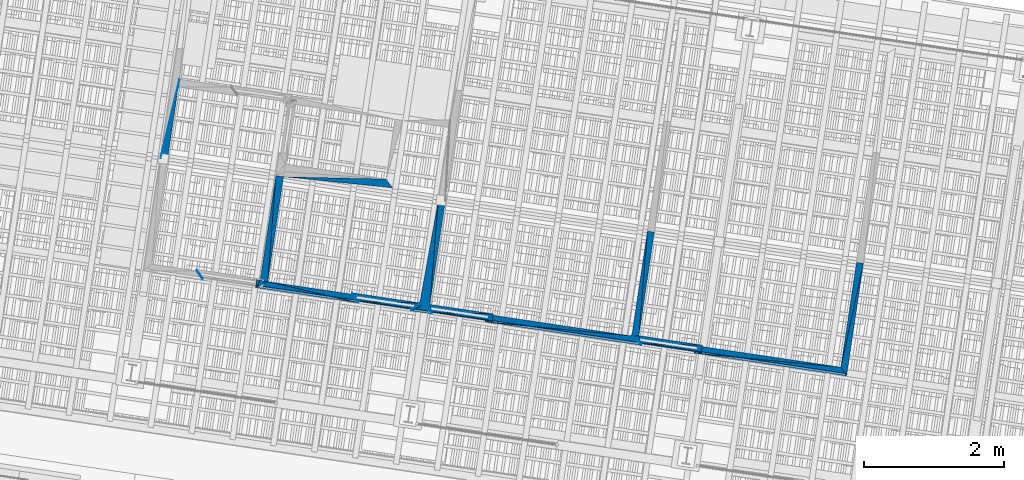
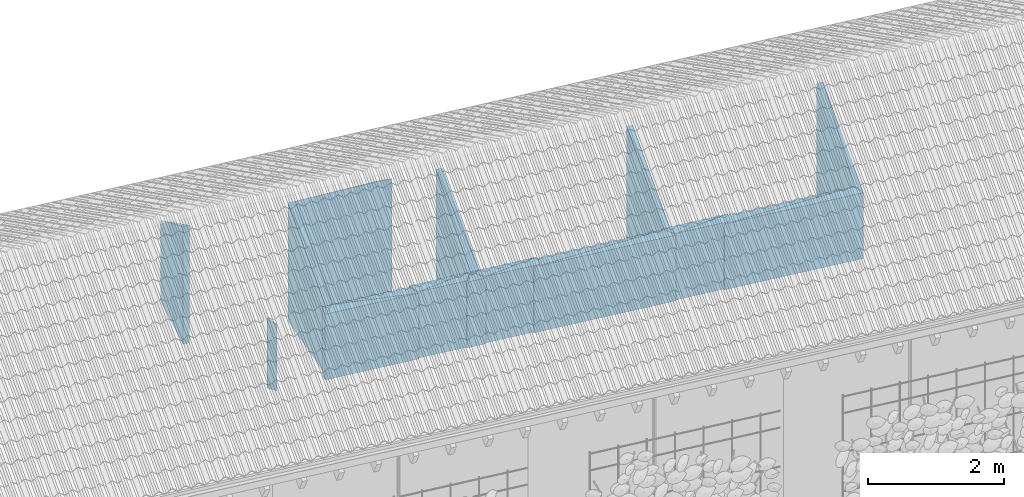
# One storey, part 121 of 128: 38 walls.
"""IFC4 building model written with IfcOpenShell, lengths in metres."""

from ifc_helpers import new_model, si_unit, direction, frame, origin_with_axes, place, context, subcontext, project, spatial, polygons, material, element, save


model = new_model("IFC4")

# Units and contexts
model_context = context("Model", 3, precision=1e-05, world=origin_with_axes(), true_north=direction((0.0, 1.0)))
body_context = subcontext(model_context, "Body", "Model", "MODEL_VIEW")
ifc_project = project(units=[si_unit("VOLUMEUNIT", "CUBIC_METRE"), si_unit("LENGTHUNIT", "METRE"), si_unit("AREAUNIT", "SQUARE_METRE")], contexts=[model_context])

# Site, building, storey
site_placement = place(None, origin_with_axes())
site = spatial("IfcSite", under=ifc_project, at=site_placement, Name="Lares · Rua das Mercês · artigo 4771")
building_placement = place(site_placement, frame((15.0, 9.7, 13.9), z_axis=(0.0, 0.0, 1.0), x_axis=(0.989015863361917, -0.147809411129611, 0.0)))
building = spatial("IfcBuilding", under=site, at=building_placement, Name="Casa Sobreposta")
storey_placement = place(building_placement, origin_with_axes())
storey = spatial("IfcBuildingStorey", under=building, at=storey_placement, Name="00 · Habitação e estacionamento", Elevation=13.9)

# Walls
ifc_material = material(Name="OSB", Category="wood")
wall_1_placement = place(storey_placement, origin_with_axes())
element("IfcWall", 1, at=wall_1_placement, inside=storey, material=ifc_material, Name="Divisória · prolongamento até ao forro", context=body_context, shape_type="Tessellation", body=[
    polygons([(8.80999999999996, 1.57999999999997, 3.05), (8.80999999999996, 1.60006813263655, 3.05), (8.70456930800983, 1.68999999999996, 3.05), (8.80999999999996, 1.57999999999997, 4.23221342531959), (8.80999999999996, 1.60006813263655, 4.24379976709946), (8.70456930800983, 1.68999999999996, 4.29572195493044)], [[[3, 2, 1]], [[4, 5, 6]], [[1, 2, 5, 4]], [[2, 3, 6, 5]], [[3, 1, 4, 6]]]),
])
wall_2_placement = place(storey_placement, origin_with_axes())
element("IfcWall", 2, at=wall_2_placement, inside=storey, material=ifc_material, Name="Divisória · prolongamento até ao forro", context=body_context, shape_type="Tessellation", body=[
    polygons([(8.70457262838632, 1.71008556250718, 3.05), (8.70456930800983, 1.68999999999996, 3.05), (8.80999999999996, 1.60006813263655, 3.05), (8.70457262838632, 1.71008556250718, 4.30731835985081), (8.70456930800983, 1.68999999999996, 4.29572195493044), (8.80999999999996, 1.60006813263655, 4.24379976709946)], [[[3, 2, 1]], [[4, 5, 6]], [[1, 2, 5, 4]], [[2, 3, 6, 5]], [[3, 1, 4, 6]]]),
])
wall_3_placement = place(storey_placement, origin_with_axes())
element("IfcWall", 3, at=wall_3_placement, inside=storey, material=ifc_material, Name="Divisória · prolongamento até ao forro", context=body_context, shape_type="Tessellation", body=[
    polygons([(8.05999999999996, 3.2, 3.05), (8.05999999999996, 4.24299999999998, 3.05), (7.96000000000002, 3.2, 3.05), (8.05999999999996, 3.2, 5.1675208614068), (8.05999999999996, 4.24299999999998, 4.56534453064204), (7.96000000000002, 3.2, 5.1675208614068)], [[[3, 2, 1]], [[4, 5, 6]], [[1, 2, 5, 4]], [[2, 3, 6, 5]], [[3, 1, 4, 6]]]),
])
wall_4_placement = place(storey_placement, origin_with_axes())
element("IfcWall", 4, at=wall_4_placement, inside=storey, material=ifc_material, Name="Divisória · prolongamento até ao forro", context=body_context, shape_type="Tessellation", body=[
    polygons([(7.96000000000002, 3.2, 3.05), (8.05999999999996, 4.24299999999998, 3.05), (8.05999999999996, 4.35299999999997, 3.05), (7.96000000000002, 3.2, 5.1675208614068), (8.05999999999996, 4.24299999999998, 4.56534453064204), (8.05999999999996, 4.35299999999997, 4.50183600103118)], [[[3, 2, 1]], [[4, 5, 6]], [[1, 2, 5, 4]], [[2, 3, 6, 5]], [[3, 1, 4, 6]]]),
])
wall_5_placement = place(storey_placement, origin_with_axes())
element("IfcWall", 5, at=wall_5_placement, inside=storey, material=ifc_material, Name="Divisória · prolongamento até ao forro", context=body_context, shape_type="Tessellation", body=[
    polygons([(9.61999999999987, 3.2, 3.05), (9.61999999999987, 1.68999999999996, 3.05), (9.72999999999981, 1.68999999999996, 3.05), (9.61999999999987, 3.2, 5.1675208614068), (9.61999999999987, 1.68999999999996, 4.29572195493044), (9.72999999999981, 1.68999999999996, 4.29572195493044)], [[[3, 2, 1]], [[4, 5, 6]], [[1, 2, 5, 4]], [[2, 3, 6, 5]], [[3, 1, 4, 6]]]),
])
wall_6_placement = place(storey_placement, origin_with_axes())
element("IfcWall", 6, at=wall_6_placement, inside=storey, material=ifc_material, Name="Divisória · prolongamento até ao forro", context=body_context, shape_type="Tessellation", body=[
    polygons([(9.61999999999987, 3.2, 3.05), (9.72999999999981, 1.68999999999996, 3.05), (9.72999999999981, 3.2, 3.05), (9.61999999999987, 3.2, 5.1675208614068), (9.72999999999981, 1.68999999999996, 4.29572195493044), (9.72999999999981, 3.2, 5.1675208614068)], [[[3, 2, 1]], [[4, 5, 6]], [[1, 2, 5, 4]], [[2, 3, 6, 5]], [[3, 1, 4, 6]]]),
])
wall_7_placement = place(storey_placement, origin_with_axes())
element("IfcWall", 7, at=wall_7_placement, inside=storey, material=ifc_material, Name="Divisória · prolongamento até ao forro", context=body_context, shape_type="Tessellation", body=[
    polygons([(11.96, 3.2, 3.05), (11.9147422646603, 1.70994155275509, 3.05), (12.06, 1.70993390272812, 3.05), (11.96, 3.2, 5.1675208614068), (11.9147422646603, 1.70994155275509, 4.30723521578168), (12.06, 1.70993390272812, 4.30723079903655)], [[[3, 2, 1]], [[4, 5, 6]], [[1, 2, 5, 4]], [[2, 3, 6, 5]], [[3, 1, 4, 6]]]),
])
wall_8_placement = place(storey_placement, origin_with_axes())
element("IfcWall", 8, at=wall_8_placement, inside=storey, material=ifc_material, Name="Divisória · prolongamento até ao forro", context=body_context, shape_type="Tessellation", body=[
    polygons([(11.96, 3.2, 3.05), (12.06, 1.70993390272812, 3.05), (12.06, 3.2, 3.05), (11.96, 3.2, 5.1675208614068), (12.06, 1.70993390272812, 4.30723079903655), (12.06, 3.2, 5.1675208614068)], [[[3, 2, 1]], [[4, 5, 6]], [[1, 2, 5, 4]], [[2, 3, 6, 5]], [[3, 1, 4, 6]]]),
])
wall_9_placement = place(storey_placement, origin_with_axes())
element("IfcWall", 9, at=wall_9_placement, inside=storey, material=ifc_material, Name="Divisória · prolongamento até ao forro", context=body_context, shape_type="Tessellation", body=[
    polygons([(12.9746138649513, 1.7100856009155, 3.05), (12.06, 1.70993390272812, 3.05), (12.1099999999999, 1.59994219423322, 3.05), (12.9746138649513, 1.7100856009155, 4.30731838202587), (12.06, 1.70993390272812, 4.30723079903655), (12.1099999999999, 1.59994219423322, 4.24372705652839)], [[[3, 2, 1]], [[4, 5, 6]], [[1, 2, 5, 4]], [[2, 3, 6, 5]], [[3, 1, 4, 6]]]),
])
wall_10_placement = place(storey_placement, origin_with_axes())
element("IfcWall", 10, at=wall_10_placement, inside=storey, material=ifc_material, Name="Divisória · prolongamento até ao forro", context=body_context, shape_type="Tessellation", body=[
    polygons([(12.9746138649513, 1.7100856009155, 3.05), (12.1099999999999, 1.59994219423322, 3.05), (12.974632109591, 1.60008560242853, 3.05), (12.9746138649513, 1.7100856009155, 4.30731838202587), (12.1099999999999, 1.59994219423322, 4.24372705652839), (12.974632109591, 1.60008560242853, 4.24380985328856)], [[[3, 2, 1]], [[4, 5, 6]], [[1, 2, 5, 4]], [[2, 3, 6, 5]], [[3, 1, 4, 6]]]),
])
wall_11_placement = place(storey_placement, origin_with_axes())
element("IfcWall", 11, at=wall_11_placement, inside=storey, material=ifc_material, Name="Divisória · prolongamento até ao forro", context=body_context, shape_type="Tessellation", body=[
    polygons([(12.1099999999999, 1.57999999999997, 3.05), (12.1099999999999, 1.59994219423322, 3.05), (11.96, 1.68999999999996, 3.05), (12.1099999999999, 1.57999999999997, 4.23221342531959), (12.1099999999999, 1.59994219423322, 4.24372705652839), (11.96, 1.68999999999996, 4.29572195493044)], [[[3, 2, 1]], [[4, 5, 6]], [[1, 2, 5, 4]], [[2, 3, 6, 5]], [[3, 1, 4, 6]]]),
])
wall_12_placement = place(storey_placement, origin_with_axes())
element("IfcWall", 12, at=wall_12_placement, inside=storey, material=ifc_material, Name="Divisória · prolongamento até ao forro", context=body_context, shape_type="Tessellation", body=[
    polygons([(12.1099999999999, 1.57999999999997, 3.05), (11.96, 1.68999999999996, 3.05), (11.8099999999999, 1.57999999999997, 3.05), (12.1099999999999, 1.57999999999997, 4.23221342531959), (11.96, 1.68999999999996, 4.29572195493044), (11.8099999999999, 1.57999999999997, 4.23221342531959)], [[[3, 2, 1]], [[4, 5, 6]], [[1, 2, 5, 4]], [[2, 3, 6, 5]], [[3, 1, 4, 6]]]),
])
wall_13_placement = place(storey_placement, origin_with_axes())
element("IfcWall", 13, at=wall_13_placement, inside=storey, material=ifc_material, Name="Divisória · prolongamento até ao forro", context=body_context, shape_type="Tessellation", body=[
    polygons([(11.8099999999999, 1.57999999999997, 3.05), (11.96, 1.68999999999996, 3.05), (11.9147393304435, 1.68999999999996, 3.05), (11.8099999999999, 1.57999999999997, 4.23221342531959), (11.96, 1.68999999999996, 4.29572195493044), (11.9147393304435, 1.68999999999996, 4.29572195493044)], [[[3, 2, 1]], [[4, 5, 6]], [[1, 2, 5, 4]], [[2, 3, 6, 5]], [[3, 1, 4, 6]]]),
])
wall_14_placement = place(storey_placement, origin_with_axes())
element("IfcWall", 14, at=wall_14_placement, inside=storey, material=ifc_material, Name="Divisória · prolongamento até ao forro", context=body_context, shape_type="Tessellation", body=[
    polygons([(11.8099999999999, 1.57999999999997, 3.05), (11.9147393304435, 1.68999999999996, 3.05), (11.8099999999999, 1.59995696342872, 3.05), (11.8099999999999, 1.57999999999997, 4.23221342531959), (11.9147393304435, 1.68999999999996, 4.29572195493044), (11.8099999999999, 1.59995696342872, 4.24373558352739)], [[[3, 2, 1]], [[4, 5, 6]], [[1, 2, 5, 4]], [[2, 3, 6, 5]], [[3, 1, 4, 6]]]),
])
wall_15_placement = place(storey_placement, origin_with_axes())
element("IfcWall", 15, at=wall_15_placement, inside=storey, material=ifc_material, Name="Divisória · prolongamento até ao forro", context=body_context, shape_type="Tessellation", body=[
    polygons([(11.05, 1.57999999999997, 3.05), (11.05, 1.60006879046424, 3.05), (10.9446622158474, 1.68999999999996, 3.05), (11.05, 1.57999999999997, 4.23221342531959), (11.05, 1.60006879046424, 4.24380014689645), (10.9446622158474, 1.68999999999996, 4.29572195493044)], [[[3, 2, 1]], [[4, 5, 6]], [[1, 2, 5, 4]], [[2, 3, 6, 5]], [[3, 1, 4, 6]]]),
])
wall_16_placement = place(storey_placement, origin_with_axes())
element("IfcWall", 16, at=wall_16_placement, inside=storey, material=ifc_material, Name="Divisória · prolongamento até ao forro", context=body_context, shape_type="Tessellation", body=[
    polygons([(11.05, 1.57999999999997, 3.05), (10.9446622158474, 1.68999999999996, 3.05), (9.72999999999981, 1.68999999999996, 3.05), (11.05, 1.57999999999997, 4.23221342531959), (10.9446622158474, 1.68999999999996, 4.29572195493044), (9.72999999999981, 1.68999999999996, 4.29572195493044)], [[[3, 2, 1]], [[4, 5, 6]], [[1, 2, 5, 4]], [[2, 3, 6, 5]], [[3, 1, 4, 6]]]),
])
wall_17_placement = place(storey_placement, origin_with_axes())
element("IfcWall", 17, at=wall_17_placement, inside=storey, material=ifc_material, Name="Divisória · prolongamento até ao forro", context=body_context, shape_type="Tessellation", body=[
    polygons([(11.05, 1.57999999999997, 3.05), (9.72999999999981, 1.68999999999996, 3.05), (9.56999999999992, 1.57999999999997, 3.05), (11.05, 1.57999999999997, 4.23221342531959), (9.72999999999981, 1.68999999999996, 4.29572195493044), (9.56999999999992, 1.57999999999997, 4.23221342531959)], [[[3, 2, 1]], [[4, 5, 6]], [[1, 2, 5, 4]], [[2, 3, 6, 5]], [[3, 1, 4, 6]]]),
])
wall_18_placement = place(storey_placement, origin_with_axes())
element("IfcWall", 18, at=wall_18_placement, inside=storey, material=ifc_material, Name="Divisória · prolongamento até ao forro", context=body_context, shape_type="Tessellation", body=[
    polygons([(9.56999999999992, 1.57999999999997, 3.05), (9.72999999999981, 1.68999999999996, 3.05), (9.61999999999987, 1.68999999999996, 3.05), (9.56999999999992, 1.57999999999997, 4.23221342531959), (9.72999999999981, 1.68999999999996, 4.29572195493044), (9.61999999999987, 1.68999999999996, 4.29572195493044)], [[[3, 2, 1]], [[4, 5, 6]], [[1, 2, 5, 4]], [[2, 3, 6, 5]], [[3, 1, 4, 6]]]),
])
wall_19_placement = place(storey_placement, origin_with_axes())
element("IfcWall", 19, at=wall_19_placement, inside=storey, material=ifc_material, Name="Divisória · prolongamento até ao forro", context=body_context, shape_type="Tessellation", body=[
    polygons([(9.56999999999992, 1.57999999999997, 3.05), (9.61999999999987, 1.68999999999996, 3.05), (9.56999999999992, 1.68999999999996, 3.05), (9.56999999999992, 1.57999999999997, 4.23221342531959), (9.61999999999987, 1.68999999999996, 4.29572195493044), (9.56999999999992, 1.68999999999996, 4.29572195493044)], [[[3, 2, 1]], [[4, 5, 6]], [[1, 2, 5, 4]], [[2, 3, 6, 5]], [[3, 1, 4, 6]]]),
])
wall_20_placement = place(storey_placement, origin_with_axes())
element("IfcWall", 20, at=wall_20_placement, inside=storey, material=ifc_material, Name="Divisória · prolongamento até ao forro", context=body_context, shape_type="Tessellation", body=[
    polygons([(10.9446651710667, 1.71008429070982, 3.05), (10.9446622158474, 1.68999999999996, 3.05), (11.05, 1.60006879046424, 3.05), (10.9446651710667, 1.71008429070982, 4.30731762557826), (10.9446622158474, 1.68999999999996, 4.29572195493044), (11.05, 1.60006879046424, 4.24380014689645)], [[[3, 2, 1]], [[4, 5, 6]], [[1, 2, 5, 4]], [[2, 3, 6, 5]], [[3, 1, 4, 6]]]),
])
wall_21_placement = place(storey_placement, origin_with_axes())
element("IfcWall", 21, at=wall_21_placement, inside=storey, material=ifc_material, Name="Divisória · prolongamento até ao forro", context=body_context, shape_type="Tessellation", body=[
    polygons([(10.9446651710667, 1.71008429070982, 3.05), (11.05, 1.60006879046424, 3.05), (11.9147422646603, 1.70994155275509, 3.05), (10.9446651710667, 1.71008429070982, 4.30731762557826), (11.05, 1.60006879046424, 4.24380014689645), (11.9147422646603, 1.70994155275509, 4.30723521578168)], [[[3, 2, 1]], [[4, 5, 6]], [[1, 2, 5, 4]], [[2, 3, 6, 5]], [[3, 1, 4, 6]]]),
])
wall_22_placement = place(storey_placement, origin_with_axes())
element("IfcWall", 22, at=wall_22_placement, inside=storey, material=ifc_material, Name="Divisória · prolongamento até ao forro", context=body_context, shape_type="Tessellation", body=[
    polygons([(11.9147422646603, 1.70994155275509, 3.05), (11.05, 1.60006879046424, 3.05), (11.8099999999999, 1.59995696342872, 3.05), (11.9147422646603, 1.70994155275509, 4.30723521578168), (11.05, 1.60006879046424, 4.24380014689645), (11.8099999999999, 1.59995696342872, 4.24373558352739)], [[[3, 2, 1]], [[4, 5, 6]], [[1, 2, 5, 4]], [[2, 3, 6, 5]], [[3, 1, 4, 6]]]),
])
wall_23_placement = place(storey_placement, origin_with_axes())
element("IfcWall", 23, at=wall_23_placement, inside=storey, material=ifc_material, Name="Divisória · prolongamento até ao forro", context=body_context, shape_type="Tessellation", body=[
    polygons([(11.9147422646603, 1.70994155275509, 3.05), (11.8099999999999, 1.59995696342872, 3.05), (11.9147393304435, 1.68999999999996, 3.05), (11.9147422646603, 1.70994155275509, 4.30723521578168), (11.8099999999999, 1.59995696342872, 4.24373558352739), (11.9147393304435, 1.68999999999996, 4.29572195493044)], [[[3, 2, 1]], [[4, 5, 6]], [[1, 2, 5, 4]], [[2, 3, 6, 5]], [[3, 1, 4, 6]]]),
])
wall_24_placement = place(storey_placement, origin_with_axes())
element("IfcWall", 24, at=wall_24_placement, inside=storey, material=ifc_material, Name="Divisória · prolongamento até ao forro", context=body_context, shape_type="Tessellation", body=[
    polygons([(11.9147422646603, 1.70994155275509, 3.05), (11.96, 1.68999999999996, 3.05), (12.06, 1.70993390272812, 3.05), (11.9147422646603, 1.70994155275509, 4.30723521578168), (11.96, 1.68999999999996, 4.29572195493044), (12.06, 1.70993390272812, 4.30723079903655)], [[[3, 2, 1]], [[4, 5, 6]], [[1, 2, 5, 4]], [[2, 3, 6, 5]], [[3, 1, 4, 6]]]),
])
wall_25_placement = place(storey_placement, origin_with_axes())
element("IfcWall", 25, at=wall_25_placement, inside=storey, material=ifc_material, Name="Divisória · prolongamento até ao forro", context=body_context, shape_type="Tessellation", body=[
    polygons([(12.06, 1.70993390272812, 3.05), (11.96, 1.68999999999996, 3.05), (12.1099999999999, 1.59994219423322, 3.05), (12.06, 1.70993390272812, 4.30723079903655), (11.96, 1.68999999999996, 4.29572195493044), (12.1099999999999, 1.59994219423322, 4.24372705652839)], [[[3, 2, 1]], [[4, 5, 6]], [[1, 2, 5, 4]], [[2, 3, 6, 5]], [[3, 1, 4, 6]]]),
])
wall_26_placement = place(storey_placement, origin_with_axes())
element("IfcWall", 26, at=wall_26_placement, inside=storey, material=ifc_material, Name="Divisória · prolongamento até ao forro", context=body_context, shape_type="Tessellation", body=[
    polygons([(9.72999999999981, 3.2, 3.05), (11.29, 3.27300000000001, 3.05), (11.1799999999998, 3.383, 3.05), (9.72999999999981, 3.2, 5.1675208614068), (11.29, 3.27300000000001, 5.12537429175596), (11.1799999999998, 3.383, 5.0618657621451)], [[[3, 2, 1]], [[4, 5, 6]], [[1, 2, 5, 4]], [[2, 3, 6, 5]], [[3, 1, 4, 6]]]),
])
wall_27_placement = place(storey_placement, origin_with_axes())
element("IfcWall", 27, at=wall_27_placement, inside=storey, material=ifc_material, Name="Divisória · prolongamento até ao forro", context=body_context, shape_type="Tessellation", body=[
    polygons([(12.8699999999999, 1.68999999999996, 3.05), (12.8699999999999, 1.57999999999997, 3.05), (14.97, 1.68999999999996, 3.05), (12.8699999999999, 1.68999999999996, 4.29572195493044), (12.8699999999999, 1.57999999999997, 4.23221342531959), (14.97, 1.68999999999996, 4.29572195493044)], [[[3, 2, 1]], [[4, 5, 6]], [[1, 2, 5, 4]], [[2, 3, 6, 5]], [[3, 1, 4, 6]]]),
])
wall_28_placement = place(storey_placement, origin_with_axes())
element("IfcWall", 28, at=wall_28_placement, inside=storey, material=ifc_material, Name="Divisória · prolongamento até ao forro", context=body_context, shape_type="Tessellation", body=[
    polygons([(14.97, 3.2, 3.05), (14.97, 1.68999999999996, 3.05), (15.07, 1.70993390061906, 3.05), (14.97, 3.2, 5.1675208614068), (14.97, 1.68999999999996, 4.29572195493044), (15.07, 1.70993390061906, 4.30723079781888)], [[[3, 2, 1]], [[4, 5, 6]], [[1, 2, 5, 4]], [[2, 3, 6, 5]], [[3, 1, 4, 6]]]),
])
wall_29_placement = place(storey_placement, origin_with_axes())
element("IfcWall", 29, at=wall_29_placement, inside=storey, material=ifc_material, Name="Divisória · prolongamento até ao forro", context=body_context, shape_type="Tessellation", body=[
    polygons([(14.97, 3.2, 3.05), (15.07, 1.70993390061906, 3.05), (15.07, 3.2, 3.05), (14.97, 3.2, 5.1675208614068), (15.07, 1.70993390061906, 4.30723079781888), (15.07, 3.2, 5.1675208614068)], [[[3, 2, 1]], [[4, 5, 6]], [[1, 2, 5, 4]], [[2, 3, 6, 5]], [[3, 1, 4, 6]]]),
])
wall_30_placement = place(storey_placement, origin_with_axes())
element("IfcWall", 30, at=wall_30_placement, inside=storey, material=ifc_material, Name="Divisória · prolongamento até ao forro", context=body_context, shape_type="Tessellation", body=[
    polygons([(15.9846265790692, 1.71008560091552, 3.05), (15.07, 1.70993390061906, 3.05), (15.1199999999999, 1.59994219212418, 3.05), (15.9846265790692, 1.71008560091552, 4.30731838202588), (15.07, 1.70993390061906, 4.30723079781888), (15.1199999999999, 1.59994219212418, 4.24372705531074)], [[[3, 2, 1]], [[4, 5, 6]], [[1, 2, 5, 4]], [[2, 3, 6, 5]], [[3, 1, 4, 6]]]),
])
wall_31_placement = place(storey_placement, origin_with_axes())
element("IfcWall", 31, at=wall_31_placement, inside=storey, material=ifc_material, Name="Divisória · prolongamento até ao forro", context=body_context, shape_type="Tessellation", body=[
    polygons([(15.9846265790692, 1.71008560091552, 3.05), (15.1199999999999, 1.59994219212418, 3.05), (15.9846448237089, 1.60008560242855, 3.05), (15.9846265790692, 1.71008560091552, 4.30731838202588), (15.1199999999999, 1.59994219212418, 4.24372705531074), (15.9846448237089, 1.60008560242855, 4.24380985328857)], [[[3, 2, 1]], [[4, 5, 6]], [[1, 2, 5, 4]], [[2, 3, 6, 5]], [[3, 1, 4, 6]]]),
])
wall_32_placement = place(storey_placement, origin_with_axes())
element("IfcWall", 32, at=wall_32_placement, inside=storey, material=ifc_material, Name="Divisória · prolongamento até ao forro", context=body_context, shape_type="Tessellation", body=[
    polygons([(15.1199999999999, 1.57999999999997, 3.05), (15.1199999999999, 1.59994219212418, 3.05), (14.97, 1.68999999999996, 3.05), (15.1199999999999, 1.57999999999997, 4.23221342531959), (15.1199999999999, 1.59994219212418, 4.24372705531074), (14.97, 1.68999999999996, 4.29572195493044)], [[[3, 2, 1]], [[4, 5, 6]], [[1, 2, 5, 4]], [[2, 3, 6, 5]], [[3, 1, 4, 6]]]),
])
wall_33_placement = place(storey_placement, origin_with_axes())
element("IfcWall", 33, at=wall_33_placement, inside=storey, material=ifc_material, Name="Divisória · prolongamento até ao forro", context=body_context, shape_type="Tessellation", body=[
    polygons([(15.1199999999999, 1.57999999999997, 3.05), (14.97, 1.68999999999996, 3.05), (12.8699999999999, 1.57999999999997, 3.05), (15.1199999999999, 1.57999999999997, 4.23221342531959), (14.97, 1.68999999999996, 4.29572195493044), (12.8699999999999, 1.57999999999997, 4.23221342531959)], [[[3, 2, 1]], [[4, 5, 6]], [[1, 2, 5, 4]], [[2, 3, 6, 5]], [[3, 1, 4, 6]]]),
])
wall_34_placement = place(storey_placement, origin_with_axes())
element("IfcWall", 34, at=wall_34_placement, inside=storey, material=ifc_material, Name="Divisória · prolongamento até ao forro", context=body_context, shape_type="Tessellation", body=[
    polygons([(14.97, 1.68999999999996, 3.05), (15.1199999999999, 1.59994219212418, 3.05), (15.07, 1.70993390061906, 3.05), (14.97, 1.68999999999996, 4.29572195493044), (15.1199999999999, 1.59994219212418, 4.24372705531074), (15.07, 1.70993390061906, 4.30723079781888)], [[[3, 2, 1]], [[4, 5, 6]], [[1, 2, 5, 4]], [[2, 3, 6, 5]], [[3, 1, 4, 6]]]),
])
wall_35_placement = place(storey_placement, origin_with_axes())
element("IfcWall", 35, at=wall_35_placement, inside=storey, material=ifc_material, Name="Divisória · prolongamento até ao forro", context=body_context, shape_type="Tessellation", body=[
    polygons([(15.8799999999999, 1.68999999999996, 3.05), (15.8799999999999, 1.57999999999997, 3.05), (17.98, 1.68999999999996, 3.05), (15.8799999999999, 1.68999999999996, 4.29572195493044), (15.8799999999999, 1.57999999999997, 4.23221342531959), (17.98, 1.68999999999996, 4.29572195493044)], [[[3, 2, 1]], [[4, 5, 6]], [[1, 2, 5, 4]], [[2, 3, 6, 5]], [[3, 1, 4, 6]]]),
])
wall_36_placement = place(storey_placement, origin_with_axes())
element("IfcWall", 36, at=wall_36_placement, inside=storey, material=ifc_material, Name="Divisória · prolongamento até ao forro", context=body_context, shape_type="Tessellation", body=[
    polygons([(17.98, 3.2, 3.05), (17.98, 1.68999999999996, 3.05), (18.0799999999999, 3.2, 3.05), (17.98, 3.2, 5.1675208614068), (17.98, 1.68999999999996, 4.29572195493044), (18.0799999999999, 3.2, 5.1675208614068)], [[[3, 2, 1]], [[4, 5, 6]], [[1, 2, 5, 4]], [[2, 3, 6, 5]], [[3, 1, 4, 6]]]),
])
wall_37_placement = place(storey_placement, origin_with_axes())
element("IfcWall", 37, at=wall_37_placement, inside=storey, material=ifc_material, Name="Divisória · prolongamento até ao forro", context=body_context, shape_type="Tessellation", body=[
    polygons([(18.0799999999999, 3.2, 3.05), (17.98, 1.68999999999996, 3.05), (18.0799999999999, 1.57999999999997, 3.05), (18.0799999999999, 3.2, 5.1675208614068), (17.98, 1.68999999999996, 4.29572195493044), (18.0799999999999, 1.57999999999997, 4.23221342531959)], [[[3, 2, 1]], [[4, 5, 6]], [[1, 2, 5, 4]], [[2, 3, 6, 5]], [[3, 1, 4, 6]]]),
])
wall_38_placement = place(storey_placement, origin_with_axes())
element("IfcWall", 38, at=wall_38_placement, inside=storey, material=ifc_material, Name="Divisória · prolongamento até ao forro", context=body_context, shape_type="Tessellation", body=[
    polygons([(18.0799999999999, 1.57999999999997, 3.05), (17.98, 1.68999999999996, 3.05), (15.8799999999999, 1.57999999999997, 3.05), (18.0799999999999, 1.57999999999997, 4.23221342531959), (17.98, 1.68999999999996, 4.29572195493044), (15.8799999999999, 1.57999999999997, 4.23221342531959)], [[[3, 2, 1]], [[4, 5, 6]], [[1, 2, 5, 4]], [[2, 3, 6, 5]], [[3, 1, 4, 6]]]),
])

save(model, "model.ifc")
